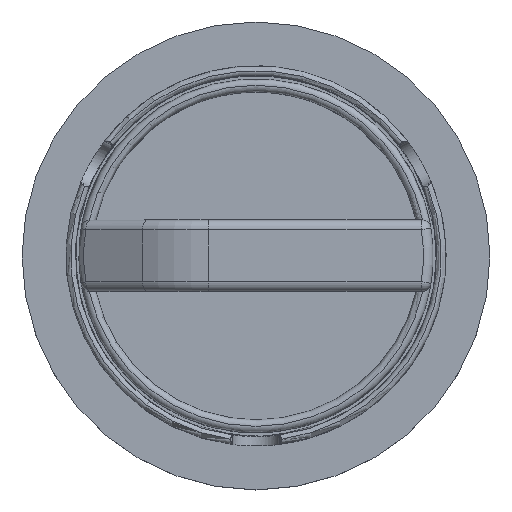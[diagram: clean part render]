
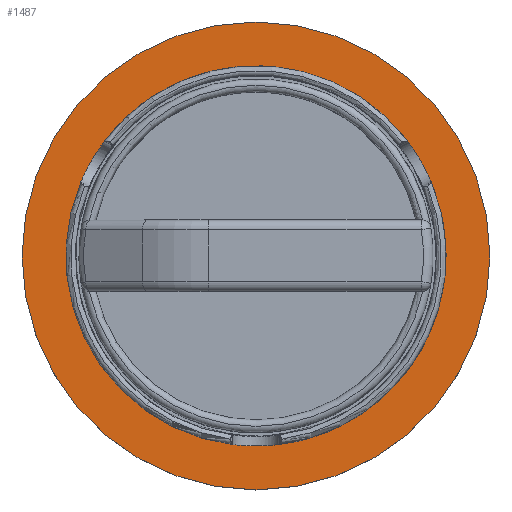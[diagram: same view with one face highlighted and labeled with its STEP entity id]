
A CAD part, top view. The second image highlights one B-rep face of the part: STEP entity #1487.
In plain terms, the highlighted planar face has unit normal (0, 0, 1).
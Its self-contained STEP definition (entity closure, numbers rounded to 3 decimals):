
#80 = CARTESIAN_POINT ( 'NONE',  ( 0., 0., 8. ) ) ;
#338 = CIRCLE ( 'NONE', #472, 36. ) ;
#393 = VERTEX_POINT ( 'NONE', #2078 ) ;
#417 = DIRECTION ( 'NONE',  ( 0., 0., 1. ) ) ;
#472 = AXIS2_PLACEMENT_3D ( 'NONE', #1005, #417, #1967 ) ;
#833 = DIRECTION ( 'NONE',  ( 1., 0., 0. ) ) ;
#893 = EDGE_LOOP ( 'NONE', ( #1597 ) ) ;
#913 = AXIS2_PLACEMENT_3D ( 'NONE', #80, #2909, #833 ) ;
#959 = AXIS2_PLACEMENT_3D ( 'NONE', #1431, #1665, #2450 ) ;
#1005 = CARTESIAN_POINT ( 'NONE',  ( 0., 0., 8. ) ) ;
#1431 = CARTESIAN_POINT ( 'NONE',  ( 0., 0., 8. ) ) ;
#1487 = ADVANCED_FACE ( 'NONE', ( #1771, #3055 ), #2125, .T. ) ;
#1597 = ORIENTED_EDGE ( 'NONE', *, *, #2196, .T. ) ;
#1607 = EDGE_CURVE ( 'NONE', #2609, #2609, #2777, .T. ) ;
#1665 = DIRECTION ( 'NONE',  ( 0., 0., 1. ) ) ;
#1771 = FACE_BOUND ( 'NONE', #3161, .T. ) ;
#1967 = DIRECTION ( 'NONE',  ( 1., 0., 0. ) ) ;
#2078 = CARTESIAN_POINT ( 'NONE',  ( 36., 0., 8. ) ) ;
#2125 = PLANE ( 'NONE',  #913 ) ;
#2196 = EDGE_CURVE ( 'NONE', #393, #393, #338, .T. ) ;
#2450 = DIRECTION ( 'NONE',  ( 1., 0., 0. ) ) ;
#2609 = VERTEX_POINT ( 'NONE', #3066 ) ;
#2777 = CIRCLE ( 'NONE', #959, 29.25 ) ;
#2909 = DIRECTION ( 'NONE',  ( 0., 0., 1. ) ) ;
#3055 = FACE_OUTER_BOUND ( 'NONE', #893, .T. ) ;
#3066 = CARTESIAN_POINT ( 'NONE',  ( 29.25, 0., 8. ) ) ;
#3134 = ORIENTED_EDGE ( 'NONE', *, *, #1607, .F. ) ;
#3161 = EDGE_LOOP ( 'NONE', ( #3134 ) ) ;
